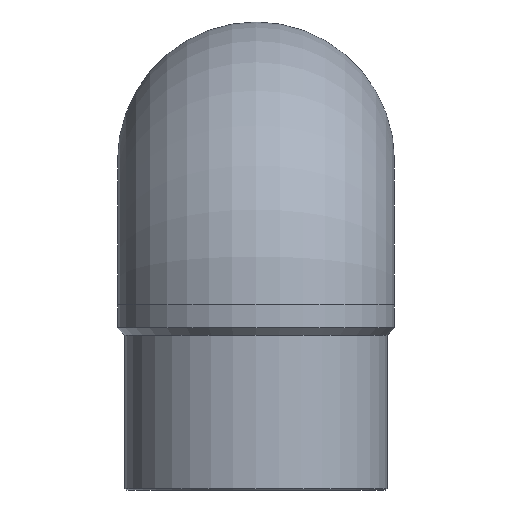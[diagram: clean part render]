
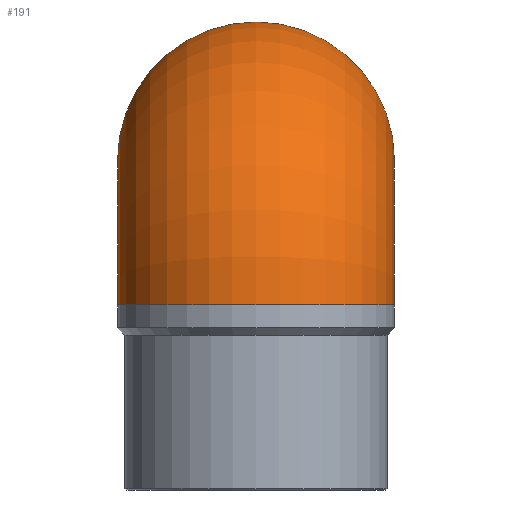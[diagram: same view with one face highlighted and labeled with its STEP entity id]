
A CAD part, left-side view. The second image highlights one B-rep face of the part: STEP entity #191.
In plain terms, the highlighted toroidal (fillet/blend) face has major radius 110 mm and minor radius 105.5 mm.
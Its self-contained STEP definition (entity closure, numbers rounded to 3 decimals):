
#20=TOROIDAL_SURFACE('',#231,110.,105.5);
#59=ORIENTED_EDGE('',*,*,#77,.F.);
#60=ORIENTED_EDGE('',*,*,#79,.T.);
#77=EDGE_CURVE('',#96,#96,#114,.F.);
#79=EDGE_CURVE('',#98,#98,#116,.F.);
#96=VERTEX_POINT('',#312);
#98=VERTEX_POINT('',#318);
#114=CIRCLE('',#217,105.5);
#116=CIRCLE('',#221,105.5);
#142=EDGE_LOOP('',(#59));
#143=EDGE_LOOP('',(#60));
#169=FACE_BOUND('',#142,.T.);
#170=FACE_BOUND('',#143,.T.);
#191=ADVANCED_FACE('',(#169,#170),#20,.T.);
#217=AXIS2_PLACEMENT_3D('',#311,#256,#257);
#221=AXIS2_PLACEMENT_3D('',#317,#264,#265);
#231=AXIS2_PLACEMENT_3D('',#367,#284,#285);
#256=DIRECTION('',(-1.,0.,0.));
#257=DIRECTION('',(0.,0.,-1.));
#264=DIRECTION('',(0.,0.,-1.));
#265=DIRECTION('',(1.,0.,0.));
#284=DIRECTION('',(0.,1.,0.));
#285=DIRECTION('',(0.,0.,1.));
#311=CARTESIAN_POINT('',(110.,0.,251.));
#312=CARTESIAN_POINT('',(110.,0.,145.5));
#317=CARTESIAN_POINT('',(0.,0.,141.));
#318=CARTESIAN_POINT('',(105.5,0.,141.));
#367=CARTESIAN_POINT('',(110.,0.,141.));
